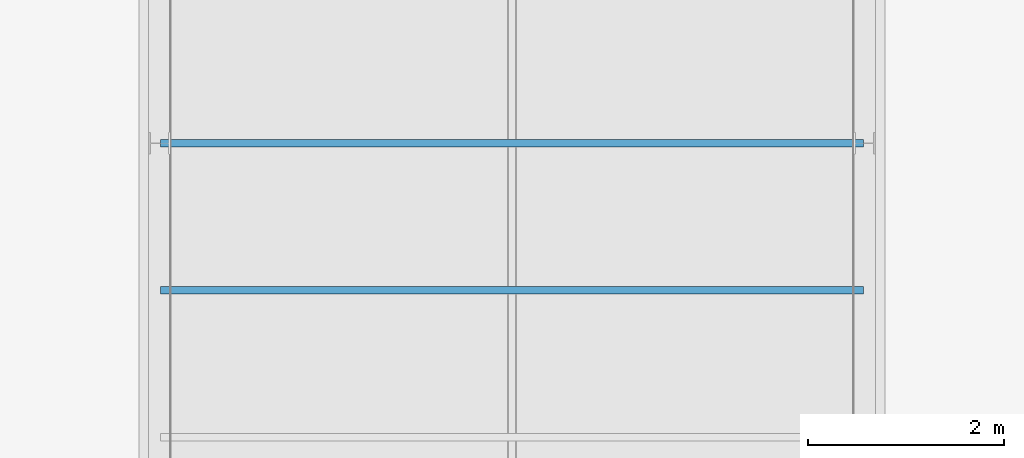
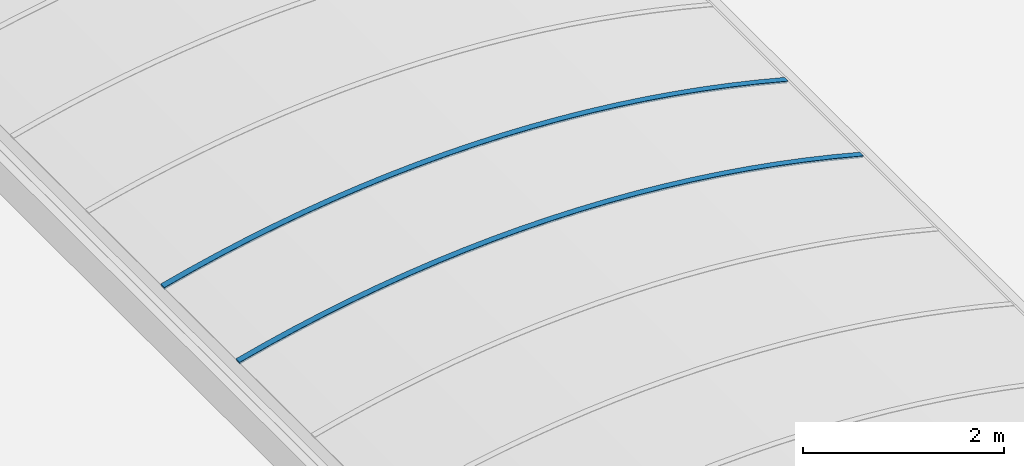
# One storey, part 34 of 81: 2 beams.
"""IFC2X3 building model written with IfcOpenShell, lengths in millimetres."""

from ifc_helpers import new_model, entity, si_unit, converted_unit, derived_unit, money_unit, direction, frame, origin_with_axes, place, context, subcontext, project, spatial, faceted_brep, material, material_list, type_object, element, save


model = new_model("IFC2X3")

# Units and contexts
model_context = context("Model", 3, precision=0.01, world=origin_with_axes(), true_north=direction((0.0, 1.0)))
body_context = subcontext(model_context, "Body", "Model", "MODEL_VIEW")
ifc_project = project(units=[si_unit("LENGTHUNIT", "METRE", prefix="MILLI"), si_unit("AREAUNIT", "SQUARE_METRE"), si_unit("VOLUMEUNIT", "CUBIC_METRE"), converted_unit("PLANEANGLEUNIT", "DEGREE", entity("IfcPlaneAngleMeasure", 0.0174532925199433), si_unit("PLANEANGLEUNIT", "RADIAN"), dimensions=[0, 0, 0, 0, 0, 0, 0]), money_unit("EUR"), converted_unit("TIMEUNIT", "Year", entity("IfcTimeMeasure", 31557600.0), si_unit("TIMEUNIT", "SECOND"), dimensions=[0, 0, 1, 0, 0, 0, 0]), si_unit("MASSUNIT", "GRAM", prefix="KILO"), si_unit("THERMODYNAMICTEMPERATUREUNIT", "DEGREE_CELSIUS"), si_unit("LUMINOUSINTENSITYUNIT", "LUMEN"), si_unit("ENERGYUNIT", "JOULE", prefix="MEGA"), derived_unit("THERMALCONDUCTANCEUNIT", [(si_unit("POWERUNIT", "WATT"), 1), (si_unit("LENGTHUNIT", "METRE"), -1), (si_unit("THERMODYNAMICTEMPERATUREUNIT", "KELVIN"), -1)]), derived_unit("SPECIFICHEATCAPACITYUNIT", [(si_unit("ENERGYUNIT", "JOULE"), 1), (si_unit("MASSUNIT", "GRAM", prefix="KILO"), -1), (si_unit("THERMODYNAMICTEMPERATUREUNIT", "KELVIN"), -1)]), derived_unit("MASSDENSITYUNIT", [(si_unit("MASSUNIT", "GRAM", prefix="KILO"), 1), (si_unit("VOLUMEUNIT", "CUBIC_METRE"), -1)])], contexts=[model_context])

# Site, building, storey
site_placement = place(None, origin_with_axes())
site = spatial("IfcSite", under=ifc_project, at=site_placement, Name="Site", CompositionType="ELEMENT")
building_placement = place(site_placement, origin_with_axes())
building = spatial("IfcBuilding", under=site, at=building_placement, Name="Naam gebouw", CompositionType="ELEMENT")
storey_placement = place(building_placement, frame((0.0, 0.0, 15320.0), z_axis=(0.0, 0.0, 1.0), x_axis=(1.0, 0.0, 0.0)))
storey = spatial("IfcBuildingStorey", under=building, at=storey_placement, Name="01 dak", CompositionType="ELEMENT", Elevation=15320.0)

# Beams
ifc_material = material(Name="Metaal - Aluminium AFW")
ifc_material_list = material_list([ifc_material, ifc_material])
beam_type = type_object("IfcBeamType", Name="lichtstraat polycarbonaat (constructie) 7420 x 670", PredefinedType="BEAM")
beam_1_placement = place(storey_placement, frame((46900.00000000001, 44362.50000000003, 559.9999999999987), z_axis=(0.0, 0.0, 1.0), x_axis=(1.0, 0.0, 0.0)))
element("IfcBeam", 1, at=beam_1_placement, inside=storey, type_object=beam_type, material=ifc_material_list, Name="Plafondafwerking 3", ObjectType="BEAM", context=body_context, shape_type="Brep", body=[
    faceted_brep([(-3532.999999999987, 0.0, 192.1385480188), (-3582.999999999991, 0.0, 179.000000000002), (-3582.999999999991, 75.00000000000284, 179.000000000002), (-3532.999999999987, 75.00000000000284, 192.1385480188), (-3264.746952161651, 0.0, 264.2761146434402), (-3584.237010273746, 0.0, 183.6724462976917), (-3527.999999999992, 0.0, 193.4415530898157), (-3213.322878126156, 0.0, 271.5053933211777), (-2896.922437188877, 0.0, 342.2614189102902), (-2578.968364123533, 0.0, 405.6716830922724), (-2259.631179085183, 0.0, 461.7021786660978), (-1939.082143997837, 0.0, 510.3228562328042), (-1617.493170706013, 0.0, 551.5076403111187), (-1295.036728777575, 0.0, 585.2344433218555), (-971.8857530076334, 0.0, 611.485177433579), (-648.2135506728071, 0.0, 630.2457642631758), (-324.1937085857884, 0.0, 641.5061424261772), (0.0, 0.0, 645.2602729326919), (324.1937085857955, 0.0, 641.5061424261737), (648.2135506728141, 0.0, 630.2457642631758), (971.8857530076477, 0.0, 611.4851774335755), (1295.036728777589, 0.0, 585.2344433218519), (1617.49317070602, 0.0, 551.5076403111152), (1939.082143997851, 0.0, 510.3228562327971), (2259.63117908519, 0.0, 461.7021786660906), (2578.968364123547, 0.0, 405.6716830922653), (2896.922437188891, 0.0, 342.2614189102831), (3213.322878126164, 0.0, 271.5053933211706), (3528.000000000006, 0.0, 193.4415530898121), (3528.000000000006, 0.0, 194.0000000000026), (3533.000000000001, 0.0, 194.0000000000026), (3533.000000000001, 0.0, 192.1385480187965), (3582.999999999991, 0.0, 179.000000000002), (3584.237010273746, 0.0, 183.6724462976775), (3264.746952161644, 0.0, 264.2761146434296), (2943.448443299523, 0.0, 337.3385317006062), (2620.519461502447, 0.0, 402.8192257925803), (2296.138887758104, 0.0, 460.6819250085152), (1970.486407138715, 0.0, 510.8945772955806), (1643.742409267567, 0.0, 553.4293682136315), (1316.087888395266, 0.0, 588.2627363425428), (987.7043431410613, 0.0, 615.3753863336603), (658.7736759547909, 0.0, 634.7522995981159), (329.4780923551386, 0.0, 646.3827426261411), (0.0, 0.0, 650.2602729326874), (-329.4780923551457, 0.0, 646.3827426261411), (-658.7736759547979, 0.0, 634.7522995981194), (-987.7043431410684, 0.0, 615.375386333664), (-1316.087888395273, 0.0, 588.2627363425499), (-1643.742409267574, 0.0, 553.4293682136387), (-1970.486407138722, 0.0, 510.8945772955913), (-2296.138887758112, 0.0, 460.6819250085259), (-2620.519461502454, 0.0, 402.8192257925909), (-2943.44844329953, 0.0, 337.3385317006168), (-3584.237010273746, 75.00000000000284, 183.6724462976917), (-3527.999999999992, 75.00000000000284, 193.4415530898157), (-3264.746952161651, 75.00000000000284, 264.2761146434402), (-2943.44844329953, 75.00000000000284, 337.3385317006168), (-2620.519461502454, 75.00000000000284, 402.8192257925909), (-2296.138887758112, 75.00000000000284, 460.6819250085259), (-1970.486407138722, 75.00000000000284, 510.8945772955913), (-1643.742409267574, 75.00000000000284, 553.4293682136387), (-1316.087888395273, 75.00000000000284, 588.2627363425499), (-987.7043431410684, 75.00000000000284, 615.375386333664), (-658.7736759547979, 75.00000000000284, 634.7522995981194), (-329.4780923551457, 75.00000000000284, 646.3827426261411), (0.0, 75.00000000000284, 650.2602729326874), (329.4780923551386, 75.00000000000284, 646.3827426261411), (658.7736759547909, 75.00000000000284, 634.7522995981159), (987.7043431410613, 75.00000000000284, 615.3753863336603), (1316.087888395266, 75.00000000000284, 588.2627363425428), (1643.742409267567, 75.00000000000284, 553.4293682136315), (1970.486407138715, 75.00000000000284, 510.8945772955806), (2296.138887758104, 75.00000000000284, 460.6819250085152), (2620.519461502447, 75.00000000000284, 402.8192257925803), (2943.448443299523, 75.00000000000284, 337.3385317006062), (3264.746952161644, 75.00000000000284, 264.2761146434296), (3584.237010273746, 75.00000000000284, 183.6724462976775), (3582.999999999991, 75.00000000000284, 179.000000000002), (3533.000000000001, 75.00000000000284, 192.1385480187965), (3533.000000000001, 75.00000000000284, 194.0000000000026), (3528.000000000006, 75.00000000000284, 194.0000000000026), (3528.000000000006, 75.00000000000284, 193.4415530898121), (3213.322878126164, 75.00000000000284, 271.5053933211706), (2896.922437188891, 75.00000000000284, 342.2614189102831), (2578.968364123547, 75.00000000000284, 405.6716830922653), (2259.63117908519, 75.00000000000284, 461.7021786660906), (1939.082143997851, 75.00000000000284, 510.3228562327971), (1617.49317070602, 75.00000000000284, 551.5076403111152), (1295.036728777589, 75.00000000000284, 585.2344433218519), (971.8857530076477, 75.00000000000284, 611.4851774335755), (648.2135506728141, 75.00000000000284, 630.2457642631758), (324.1937085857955, 75.00000000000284, 641.5061424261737), (0.0, 75.00000000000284, 645.2602729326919), (-324.1937085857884, 75.00000000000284, 641.5061424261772), (-648.2135506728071, 75.00000000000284, 630.2457642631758), (-971.8857530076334, 75.00000000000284, 611.485177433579), (-1295.036728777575, 75.00000000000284, 585.2344433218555), (-1617.493170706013, 75.00000000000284, 551.5076403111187), (-1939.082143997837, 75.00000000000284, 510.3228562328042), (-2259.631179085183, 75.00000000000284, 461.7021786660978), (-2578.968364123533, 75.00000000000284, 405.6716830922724), (-2896.922437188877, 75.00000000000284, 342.2614189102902), (-3213.322878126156, 75.00000000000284, 271.5053933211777)], [[[0, 1, 2, 3]], [[4, 5, 1, 0, 6, 7, 8, 9, 10, 11, 12, 13, 14, 15, 16, 17, 18, 19, 20, 21, 22, 23, 24, 25, 26, 27, 28, 29, 30, 31, 32, 33, 34, 35, 36, 37, 38, 39, 40, 41, 42, 43, 44, 45, 46, 47, 48, 49, 50, 51, 52, 53]], [[1, 5, 54, 2]], [[55, 3, 2, 54, 56, 57, 58, 59, 60, 61, 62, 63, 64, 65, 66, 67, 68, 69, 70, 71, 72, 73, 74, 75, 76, 77, 78, 79, 80, 81, 82, 83, 84, 85, 86, 87, 88, 89, 90, 91, 92, 93, 94, 95, 96, 97, 98, 99, 100, 101, 102, 103]], [[6, 0, 3, 55]], [[5, 4, 56, 54]], [[7, 6, 55, 103]], [[8, 7, 103, 102]], [[9, 8, 102, 101]], [[10, 9, 101, 100]], [[11, 10, 100, 99]], [[12, 11, 99, 98]], [[13, 12, 98, 97]], [[14, 13, 97, 96]], [[15, 14, 96, 95]], [[16, 15, 95, 94]], [[17, 16, 94, 93]], [[18, 17, 93, 92]], [[19, 18, 92, 91]], [[20, 19, 91, 90]], [[21, 20, 90, 89]], [[22, 21, 89, 88]], [[23, 22, 88, 87]], [[24, 23, 87, 86]], [[25, 24, 86, 85]], [[26, 25, 85, 84]], [[27, 26, 84, 83]], [[28, 27, 83, 82]], [[29, 28, 82, 81]], [[30, 29, 81, 80]], [[31, 30, 80, 79]], [[32, 31, 79, 78]], [[33, 32, 78, 77]], [[34, 33, 77, 76]], [[35, 34, 76, 75]], [[36, 35, 75, 74]], [[37, 36, 74, 73]], [[38, 37, 73, 72]], [[39, 38, 72, 71]], [[40, 39, 71, 70]], [[41, 40, 70, 69]], [[42, 41, 69, 68]], [[43, 42, 68, 67]], [[44, 43, 67, 66]], [[45, 44, 66, 65]], [[46, 45, 65, 64]], [[47, 46, 64, 63]], [[48, 47, 63, 62]], [[49, 48, 62, 61]], [[50, 49, 61, 60]], [[51, 50, 60, 59]], [[52, 51, 59, 58]], [[53, 52, 58, 57]], [[4, 53, 57, 56]]]),
    faceted_brep([(3269.271727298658, 75.00000000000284, 283.190243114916), (2947.542627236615, 75.00000000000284, 356.4574241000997), (2947.542627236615, 0.0, 356.4574241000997), (3269.271727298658, 0.0, 283.190243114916), (3589.18475202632, 75.00000000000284, 202.3611008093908), (3587.947861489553, 75.00000000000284, 197.6891067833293), (3528.000000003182, 75.00000000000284, 213.4415530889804), (3213.322878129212, 75.00000000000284, 291.505393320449), (2896.922437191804, 75.00000000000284, 362.2614189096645), (2578.968364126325, 75.00000000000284, 425.6716830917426), (2259.631179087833, 75.00000000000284, 481.7021786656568), (1939.082144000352, 75.00000000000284, 530.3228562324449), (1617.493170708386, 75.00000000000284, 571.5076403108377), (1295.036728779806, 75.00000000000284, 605.2344433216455), (971.8857530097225, 75.00000000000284, 631.4851774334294), (648.2135506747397, 75.00000000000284, 650.2457642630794), (324.1937085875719, 75.00000000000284, 661.5061424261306), (1.63424829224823e-09, 75.00000000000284, 665.2602729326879), (-324.1937085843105, 75.00000000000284, 661.5061424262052), (-648.2135506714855, 75.00000000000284, 650.2457642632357), (-971.8857530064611, 75.00000000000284, 631.4851774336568), (-1295.036728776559, 75.00000000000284, 605.2344433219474), (-1617.493170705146, 75.00000000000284, 571.5076403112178), (-1939.082143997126, 75.00000000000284, 530.3228562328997), (-2259.631179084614, 75.00000000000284, 481.7021786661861), (-2578.968364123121, 75.00000000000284, 425.6716830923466), (-2896.922437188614, 75.00000000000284, 362.2614189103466), (-3213.322878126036, 75.00000000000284, 291.5053933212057), (-3528.00000000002, 75.00000000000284, 213.4415530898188), (-3533.000000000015, 75.00000000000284, 212.1385480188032), (-3587.947861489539, 75.00000000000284, 197.6891067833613), (-3589.184752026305, 75.00000000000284, 202.3611008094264), (-3269.271727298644, 75.00000000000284, 283.1902431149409), (-2947.542627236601, 75.00000000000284, 356.4574241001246), (-2624.176171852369, 75.00000000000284, 422.1219439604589), (-2299.351990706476, 75.00000000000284, 480.1473261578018), (-1973.250523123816, 75.00000000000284, 530.5013376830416), (-1646.052917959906, 75.00000000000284, 573.156006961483), (-1317.940932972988, 75.00000000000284, 608.0876393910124), (-989.0968338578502, 75.00000000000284, 635.2768305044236), (-659.7032929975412, 75.00000000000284, 654.7084767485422), (-329.9432879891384, 75.00000000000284, 666.3717838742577), (0.0, 75.00000000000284, 670.2602729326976), (329.9432879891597, 75.00000000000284, 666.3717838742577), (659.7032929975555, 75.00000000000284, 654.7084767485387), (989.0968338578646, 75.00000000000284, 635.2768305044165), (1317.940932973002, 75.00000000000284, 608.0876393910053), (1646.052917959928, 75.00000000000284, 573.1560069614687), (1973.250523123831, 75.00000000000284, 530.5013376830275), (2299.351990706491, 75.00000000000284, 480.147326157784), (2624.176171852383, 75.00000000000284, 422.1219439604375), (2624.176171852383, 0.0, 422.1219439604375), (2299.351990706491, 0.0, 480.147326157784), (1973.250523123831, 0.0, 530.5013376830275), (1646.052917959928, 0.0, 573.1560069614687), (1317.940932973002, 0.0, 608.0876393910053), (989.0968338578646, 0.0, 635.2768305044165), (659.7032929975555, 0.0, 654.7084767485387), (329.9432879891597, 0.0, 666.3717838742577), (0.0, 0.0, 670.2602729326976), (-329.9432879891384, 0.0, 666.3717838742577), (-659.7032929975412, 0.0, 654.7084767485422), (-989.0968338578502, 0.0, 635.2768305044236), (-1317.940932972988, 0.0, 608.0876393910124), (-1646.052917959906, 0.0, 573.156006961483), (-1973.250523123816, 0.0, 530.5013376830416), (-2299.351990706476, 0.0, 480.1473261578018), (-2624.176171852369, 0.0, 422.1219439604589), (-2947.542627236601, 0.0, 356.4574241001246), (-3269.271727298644, 0.0, 283.1902431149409), (-3589.184752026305, 0.0, 202.3611008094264), (-3587.947861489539, 0.0, 197.6891067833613), (-3533.000000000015, 0.0, 212.1385480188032), (-3528.00000000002, 0.0, 213.4415530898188), (-3213.322878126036, 0.0, 291.5053933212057), (-2896.922437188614, 0.0, 362.2614189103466), (-2578.968364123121, 0.0, 425.6716830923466), (-2259.631179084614, 0.0, 481.7021786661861), (-1939.082143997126, 0.0, 530.3228562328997), (-1617.493170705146, 0.0, 571.5076403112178), (-1295.036728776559, 0.0, 605.2344433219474), (-971.8857530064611, 0.0, 631.4851774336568), (-648.2135506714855, 0.0, 650.2457642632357), (-324.1937085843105, 0.0, 661.5061424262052), (1.63424829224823e-09, 0.0, 665.2602729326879), (324.1937085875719, 0.0, 661.5061424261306), (648.2135506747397, 0.0, 650.2457642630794), (971.8857530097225, 0.0, 631.4851774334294), (1295.036728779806, 0.0, 605.2344433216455), (1617.493170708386, 0.0, 571.5076403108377), (1939.082144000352, 0.0, 530.3228562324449), (2259.631179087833, 0.0, 481.7021786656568), (2578.968364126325, 0.0, 425.6716830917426), (2896.922437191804, 0.0, 362.2614189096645), (3213.322878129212, 0.0, 291.505393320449), (3528.000000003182, 0.0, 213.4415530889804), (3587.947861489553, 0.0, 197.6891067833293), (3589.18475202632, 0.0, 202.3611008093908)], [[[0, 1, 2, 3]], [[0, 4, 5, 6, 7, 8, 9, 10, 11, 12, 13, 14, 15, 16, 17, 18, 19, 20, 21, 22, 23, 24, 25, 26, 27, 28, 29, 30, 31, 32, 33, 34, 35, 36, 37, 38, 39, 40, 41, 42, 43, 44, 45, 46, 47, 48, 49, 50, 1]], [[1, 50, 51, 2]], [[3, 2, 51, 52, 53, 54, 55, 56, 57, 58, 59, 60, 61, 62, 63, 64, 65, 66, 67, 68, 69, 70, 71, 72, 73, 74, 75, 76, 77, 78, 79, 80, 81, 82, 83, 84, 85, 86, 87, 88, 89, 90, 91, 92, 93, 94, 95, 96, 97]], [[4, 0, 3, 97]], [[5, 4, 97, 96]], [[6, 5, 96, 95]], [[7, 6, 95, 94]], [[8, 7, 94, 93]], [[9, 8, 93, 92]], [[10, 9, 92, 91]], [[11, 10, 91, 90]], [[12, 11, 90, 89]], [[13, 12, 89, 88]], [[14, 13, 88, 87]], [[15, 14, 87, 86]], [[16, 15, 86, 85]], [[17, 16, 85, 84]], [[18, 17, 84, 83]], [[19, 18, 83, 82]], [[20, 19, 82, 81]], [[21, 20, 81, 80]], [[22, 21, 80, 79]], [[23, 22, 79, 78]], [[24, 23, 78, 77]], [[25, 24, 77, 76]], [[26, 25, 76, 75]], [[27, 26, 75, 74]], [[28, 27, 74, 73]], [[29, 28, 73, 72]], [[30, 29, 72, 71]], [[31, 30, 71, 70]], [[32, 31, 70, 69]], [[33, 32, 69, 68]], [[34, 33, 68, 67]], [[35, 34, 67, 66]], [[36, 35, 66, 65]], [[37, 36, 65, 64]], [[38, 37, 64, 63]], [[39, 38, 63, 62]], [[40, 39, 62, 61]], [[41, 40, 61, 60]], [[42, 41, 60, 59]], [[43, 42, 59, 58]], [[44, 43, 58, 57]], [[45, 44, 57, 56]], [[46, 45, 56, 55]], [[47, 46, 55, 54]], [[48, 47, 54, 53]], [[49, 48, 53, 52]], [[50, 49, 52, 51]]]),
])
beam_2_placement = place(storey_placement, frame((46900.00000000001, 42862.50000000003, 559.9999999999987), z_axis=(0.0, 0.0, 1.0), x_axis=(1.0, 0.0, 0.0)))
element("IfcBeam", 2, at=beam_2_placement, inside=storey, type_object=beam_type, material=ifc_material_list, Name="Plafondafwerking 3", ObjectType="BEAM", context=body_context, shape_type="Brep", body=[
    faceted_brep([(-3532.999999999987, 0.0, 192.1385480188), (-3582.999999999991, 0.0, 179.000000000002), (-3582.999999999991, 75.00000000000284, 179.000000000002), (-3532.999999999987, 75.00000000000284, 192.1385480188), (-3264.746952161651, 0.0, 264.2761146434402), (-3584.237010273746, 0.0, 183.6724462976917), (-3527.999999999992, 0.0, 193.4415530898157), (-3213.322878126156, 0.0, 271.5053933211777), (-2896.922437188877, 0.0, 342.2614189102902), (-2578.968364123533, 0.0, 405.6716830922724), (-2259.631179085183, 0.0, 461.7021786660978), (-1939.082143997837, 0.0, 510.3228562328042), (-1617.493170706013, 0.0, 551.5076403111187), (-1295.036728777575, 0.0, 585.2344433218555), (-971.8857530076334, 0.0, 611.485177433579), (-648.2135506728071, 0.0, 630.2457642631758), (-324.1937085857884, 0.0, 641.5061424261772), (0.0, 0.0, 645.2602729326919), (324.1937085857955, 0.0, 641.5061424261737), (648.2135506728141, 0.0, 630.2457642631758), (971.8857530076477, 0.0, 611.4851774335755), (1295.036728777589, 0.0, 585.2344433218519), (1617.49317070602, 0.0, 551.5076403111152), (1939.082143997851, 0.0, 510.3228562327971), (2259.63117908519, 0.0, 461.7021786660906), (2578.968364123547, 0.0, 405.6716830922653), (2896.922437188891, 0.0, 342.2614189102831), (3213.322878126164, 0.0, 271.5053933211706), (3528.000000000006, 0.0, 193.4415530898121), (3528.000000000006, 0.0, 194.0000000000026), (3533.000000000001, 0.0, 194.0000000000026), (3533.000000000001, 0.0, 192.1385480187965), (3582.999999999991, 0.0, 179.000000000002), (3584.237010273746, 0.0, 183.6724462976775), (3264.746952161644, 0.0, 264.2761146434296), (2943.448443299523, 0.0, 337.3385317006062), (2620.519461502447, 0.0, 402.8192257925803), (2296.138887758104, 0.0, 460.6819250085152), (1970.486407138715, 0.0, 510.8945772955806), (1643.742409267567, 0.0, 553.4293682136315), (1316.087888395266, 0.0, 588.2627363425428), (987.7043431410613, 0.0, 615.3753863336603), (658.7736759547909, 0.0, 634.7522995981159), (329.4780923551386, 0.0, 646.3827426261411), (0.0, 0.0, 650.2602729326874), (-329.4780923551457, 0.0, 646.3827426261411), (-658.7736759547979, 0.0, 634.7522995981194), (-987.7043431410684, 0.0, 615.375386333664), (-1316.087888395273, 0.0, 588.2627363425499), (-1643.742409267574, 0.0, 553.4293682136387), (-1970.486407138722, 0.0, 510.8945772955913), (-2296.138887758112, 0.0, 460.6819250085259), (-2620.519461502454, 0.0, 402.8192257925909), (-2943.44844329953, 0.0, 337.3385317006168), (-3584.237010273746, 75.00000000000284, 183.6724462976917), (-3527.999999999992, 75.00000000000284, 193.4415530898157), (-3264.746952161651, 75.00000000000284, 264.2761146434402), (-2943.44844329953, 75.00000000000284, 337.3385317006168), (-2620.519461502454, 75.00000000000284, 402.8192257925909), (-2296.138887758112, 75.00000000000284, 460.6819250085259), (-1970.486407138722, 75.00000000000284, 510.8945772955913), (-1643.742409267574, 75.00000000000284, 553.4293682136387), (-1316.087888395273, 75.00000000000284, 588.2627363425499), (-987.7043431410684, 75.00000000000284, 615.375386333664), (-658.7736759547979, 75.00000000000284, 634.7522995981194), (-329.4780923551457, 75.00000000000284, 646.3827426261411), (0.0, 75.00000000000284, 650.2602729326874), (329.4780923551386, 75.00000000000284, 646.3827426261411), (658.7736759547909, 75.00000000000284, 634.7522995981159), (987.7043431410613, 75.00000000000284, 615.3753863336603), (1316.087888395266, 75.00000000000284, 588.2627363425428), (1643.742409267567, 75.00000000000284, 553.4293682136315), (1970.486407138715, 75.00000000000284, 510.8945772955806), (2296.138887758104, 75.00000000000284, 460.6819250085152), (2620.519461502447, 75.00000000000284, 402.8192257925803), (2943.448443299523, 75.00000000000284, 337.3385317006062), (3264.746952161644, 75.00000000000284, 264.2761146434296), (3584.237010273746, 75.00000000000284, 183.6724462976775), (3582.999999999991, 75.00000000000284, 179.000000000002), (3533.000000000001, 75.00000000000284, 192.1385480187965), (3533.000000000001, 75.00000000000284, 194.0000000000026), (3528.000000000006, 75.00000000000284, 194.0000000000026), (3528.000000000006, 75.00000000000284, 193.4415530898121), (3213.322878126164, 75.00000000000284, 271.5053933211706), (2896.922437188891, 75.00000000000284, 342.2614189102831), (2578.968364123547, 75.00000000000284, 405.6716830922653), (2259.63117908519, 75.00000000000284, 461.7021786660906), (1939.082143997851, 75.00000000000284, 510.3228562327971), (1617.49317070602, 75.00000000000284, 551.5076403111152), (1295.036728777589, 75.00000000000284, 585.2344433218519), (971.8857530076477, 75.00000000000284, 611.4851774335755), (648.2135506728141, 75.00000000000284, 630.2457642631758), (324.1937085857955, 75.00000000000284, 641.5061424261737), (0.0, 75.00000000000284, 645.2602729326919), (-324.1937085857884, 75.00000000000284, 641.5061424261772), (-648.2135506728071, 75.00000000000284, 630.2457642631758), (-971.8857530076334, 75.00000000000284, 611.485177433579), (-1295.036728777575, 75.00000000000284, 585.2344433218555), (-1617.493170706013, 75.00000000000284, 551.5076403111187), (-1939.082143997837, 75.00000000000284, 510.3228562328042), (-2259.631179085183, 75.00000000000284, 461.7021786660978), (-2578.968364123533, 75.00000000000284, 405.6716830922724), (-2896.922437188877, 75.00000000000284, 342.2614189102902), (-3213.322878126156, 75.00000000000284, 271.5053933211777)], [[[0, 1, 2, 3]], [[4, 5, 1, 0, 6, 7, 8, 9, 10, 11, 12, 13, 14, 15, 16, 17, 18, 19, 20, 21, 22, 23, 24, 25, 26, 27, 28, 29, 30, 31, 32, 33, 34, 35, 36, 37, 38, 39, 40, 41, 42, 43, 44, 45, 46, 47, 48, 49, 50, 51, 52, 53]], [[1, 5, 54, 2]], [[55, 3, 2, 54, 56, 57, 58, 59, 60, 61, 62, 63, 64, 65, 66, 67, 68, 69, 70, 71, 72, 73, 74, 75, 76, 77, 78, 79, 80, 81, 82, 83, 84, 85, 86, 87, 88, 89, 90, 91, 92, 93, 94, 95, 96, 97, 98, 99, 100, 101, 102, 103]], [[6, 0, 3, 55]], [[5, 4, 56, 54]], [[7, 6, 55, 103]], [[8, 7, 103, 102]], [[9, 8, 102, 101]], [[10, 9, 101, 100]], [[11, 10, 100, 99]], [[12, 11, 99, 98]], [[13, 12, 98, 97]], [[14, 13, 97, 96]], [[15, 14, 96, 95]], [[16, 15, 95, 94]], [[17, 16, 94, 93]], [[18, 17, 93, 92]], [[19, 18, 92, 91]], [[20, 19, 91, 90]], [[21, 20, 90, 89]], [[22, 21, 89, 88]], [[23, 22, 88, 87]], [[24, 23, 87, 86]], [[25, 24, 86, 85]], [[26, 25, 85, 84]], [[27, 26, 84, 83]], [[28, 27, 83, 82]], [[29, 28, 82, 81]], [[30, 29, 81, 80]], [[31, 30, 80, 79]], [[32, 31, 79, 78]], [[33, 32, 78, 77]], [[34, 33, 77, 76]], [[35, 34, 76, 75]], [[36, 35, 75, 74]], [[37, 36, 74, 73]], [[38, 37, 73, 72]], [[39, 38, 72, 71]], [[40, 39, 71, 70]], [[41, 40, 70, 69]], [[42, 41, 69, 68]], [[43, 42, 68, 67]], [[44, 43, 67, 66]], [[45, 44, 66, 65]], [[46, 45, 65, 64]], [[47, 46, 64, 63]], [[48, 47, 63, 62]], [[49, 48, 62, 61]], [[50, 49, 61, 60]], [[51, 50, 60, 59]], [[52, 51, 59, 58]], [[53, 52, 58, 57]], [[4, 53, 57, 56]]]),
    faceted_brep([(3269.271727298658, 75.00000000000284, 283.190243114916), (2947.542627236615, 75.00000000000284, 356.4574241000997), (2947.542627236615, 0.0, 356.4574241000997), (3269.271727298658, 0.0, 283.190243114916), (3589.18475202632, 75.00000000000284, 202.3611008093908), (3587.947861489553, 75.00000000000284, 197.6891067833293), (3528.000000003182, 75.00000000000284, 213.4415530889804), (3213.322878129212, 75.00000000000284, 291.505393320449), (2896.922437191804, 75.00000000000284, 362.2614189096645), (2578.968364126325, 75.00000000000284, 425.6716830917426), (2259.631179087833, 75.00000000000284, 481.7021786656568), (1939.082144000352, 75.00000000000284, 530.3228562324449), (1617.493170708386, 75.00000000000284, 571.5076403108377), (1295.036728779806, 75.00000000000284, 605.2344433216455), (971.8857530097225, 75.00000000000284, 631.4851774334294), (648.2135506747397, 75.00000000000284, 650.2457642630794), (324.1937085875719, 75.00000000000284, 661.5061424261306), (1.63424829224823e-09, 75.00000000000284, 665.2602729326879), (-324.1937085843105, 75.00000000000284, 661.5061424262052), (-648.2135506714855, 75.00000000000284, 650.2457642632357), (-971.8857530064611, 75.00000000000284, 631.4851774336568), (-1295.036728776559, 75.00000000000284, 605.2344433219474), (-1617.493170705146, 75.00000000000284, 571.5076403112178), (-1939.082143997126, 75.00000000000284, 530.3228562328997), (-2259.631179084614, 75.00000000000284, 481.7021786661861), (-2578.968364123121, 75.00000000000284, 425.6716830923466), (-2896.922437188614, 75.00000000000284, 362.2614189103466), (-3213.322878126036, 75.00000000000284, 291.5053933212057), (-3528.00000000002, 75.00000000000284, 213.4415530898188), (-3533.000000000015, 75.00000000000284, 212.1385480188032), (-3587.947861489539, 75.00000000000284, 197.6891067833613), (-3589.184752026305, 75.00000000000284, 202.3611008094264), (-3269.271727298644, 75.00000000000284, 283.1902431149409), (-2947.542627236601, 75.00000000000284, 356.4574241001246), (-2624.176171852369, 75.00000000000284, 422.1219439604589), (-2299.351990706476, 75.00000000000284, 480.1473261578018), (-1973.250523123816, 75.00000000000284, 530.5013376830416), (-1646.052917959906, 75.00000000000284, 573.156006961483), (-1317.940932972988, 75.00000000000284, 608.0876393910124), (-989.0968338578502, 75.00000000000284, 635.2768305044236), (-659.7032929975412, 75.00000000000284, 654.7084767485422), (-329.9432879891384, 75.00000000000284, 666.3717838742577), (0.0, 75.00000000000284, 670.2602729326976), (329.9432879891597, 75.00000000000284, 666.3717838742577), (659.7032929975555, 75.00000000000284, 654.7084767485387), (989.0968338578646, 75.00000000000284, 635.2768305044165), (1317.940932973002, 75.00000000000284, 608.0876393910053), (1646.052917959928, 75.00000000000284, 573.1560069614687), (1973.250523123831, 75.00000000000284, 530.5013376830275), (2299.351990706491, 75.00000000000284, 480.147326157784), (2624.176171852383, 75.00000000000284, 422.1219439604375), (2624.176171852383, 0.0, 422.1219439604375), (2299.351990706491, 0.0, 480.147326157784), (1973.250523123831, 0.0, 530.5013376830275), (1646.052917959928, 0.0, 573.1560069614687), (1317.940932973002, 0.0, 608.0876393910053), (989.0968338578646, 0.0, 635.2768305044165), (659.7032929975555, 0.0, 654.7084767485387), (329.9432879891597, 0.0, 666.3717838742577), (0.0, 0.0, 670.2602729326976), (-329.9432879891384, 0.0, 666.3717838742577), (-659.7032929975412, 0.0, 654.7084767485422), (-989.0968338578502, 0.0, 635.2768305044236), (-1317.940932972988, 0.0, 608.0876393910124), (-1646.052917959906, 0.0, 573.156006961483), (-1973.250523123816, 0.0, 530.5013376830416), (-2299.351990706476, 0.0, 480.1473261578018), (-2624.176171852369, 0.0, 422.1219439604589), (-2947.542627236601, 0.0, 356.4574241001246), (-3269.271727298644, 0.0, 283.1902431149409), (-3589.184752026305, 0.0, 202.3611008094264), (-3587.947861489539, 0.0, 197.6891067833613), (-3533.000000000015, 0.0, 212.1385480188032), (-3528.00000000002, 0.0, 213.4415530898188), (-3213.322878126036, 0.0, 291.5053933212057), (-2896.922437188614, 0.0, 362.2614189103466), (-2578.968364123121, 0.0, 425.6716830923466), (-2259.631179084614, 0.0, 481.7021786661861), (-1939.082143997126, 0.0, 530.3228562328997), (-1617.493170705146, 0.0, 571.5076403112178), (-1295.036728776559, 0.0, 605.2344433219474), (-971.8857530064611, 0.0, 631.4851774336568), (-648.2135506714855, 0.0, 650.2457642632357), (-324.1937085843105, 0.0, 661.5061424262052), (1.63424829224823e-09, 0.0, 665.2602729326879), (324.1937085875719, 0.0, 661.5061424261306), (648.2135506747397, 0.0, 650.2457642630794), (971.8857530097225, 0.0, 631.4851774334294), (1295.036728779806, 0.0, 605.2344433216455), (1617.493170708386, 0.0, 571.5076403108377), (1939.082144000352, 0.0, 530.3228562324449), (2259.631179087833, 0.0, 481.7021786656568), (2578.968364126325, 0.0, 425.6716830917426), (2896.922437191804, 0.0, 362.2614189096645), (3213.322878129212, 0.0, 291.505393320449), (3528.000000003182, 0.0, 213.4415530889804), (3587.947861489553, 0.0, 197.6891067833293), (3589.18475202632, 0.0, 202.3611008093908)], [[[0, 1, 2, 3]], [[0, 4, 5, 6, 7, 8, 9, 10, 11, 12, 13, 14, 15, 16, 17, 18, 19, 20, 21, 22, 23, 24, 25, 26, 27, 28, 29, 30, 31, 32, 33, 34, 35, 36, 37, 38, 39, 40, 41, 42, 43, 44, 45, 46, 47, 48, 49, 50, 1]], [[1, 50, 51, 2]], [[3, 2, 51, 52, 53, 54, 55, 56, 57, 58, 59, 60, 61, 62, 63, 64, 65, 66, 67, 68, 69, 70, 71, 72, 73, 74, 75, 76, 77, 78, 79, 80, 81, 82, 83, 84, 85, 86, 87, 88, 89, 90, 91, 92, 93, 94, 95, 96, 97]], [[4, 0, 3, 97]], [[5, 4, 97, 96]], [[6, 5, 96, 95]], [[7, 6, 95, 94]], [[8, 7, 94, 93]], [[9, 8, 93, 92]], [[10, 9, 92, 91]], [[11, 10, 91, 90]], [[12, 11, 90, 89]], [[13, 12, 89, 88]], [[14, 13, 88, 87]], [[15, 14, 87, 86]], [[16, 15, 86, 85]], [[17, 16, 85, 84]], [[18, 17, 84, 83]], [[19, 18, 83, 82]], [[20, 19, 82, 81]], [[21, 20, 81, 80]], [[22, 21, 80, 79]], [[23, 22, 79, 78]], [[24, 23, 78, 77]], [[25, 24, 77, 76]], [[26, 25, 76, 75]], [[27, 26, 75, 74]], [[28, 27, 74, 73]], [[29, 28, 73, 72]], [[30, 29, 72, 71]], [[31, 30, 71, 70]], [[32, 31, 70, 69]], [[33, 32, 69, 68]], [[34, 33, 68, 67]], [[35, 34, 67, 66]], [[36, 35, 66, 65]], [[37, 36, 65, 64]], [[38, 37, 64, 63]], [[39, 38, 63, 62]], [[40, 39, 62, 61]], [[41, 40, 61, 60]], [[42, 41, 60, 59]], [[43, 42, 59, 58]], [[44, 43, 58, 57]], [[45, 44, 57, 56]], [[46, 45, 56, 55]], [[47, 46, 55, 54]], [[48, 47, 54, 53]], [[49, 48, 53, 52]], [[50, 49, 52, 51]]]),
])

save(model, "model.ifc")
